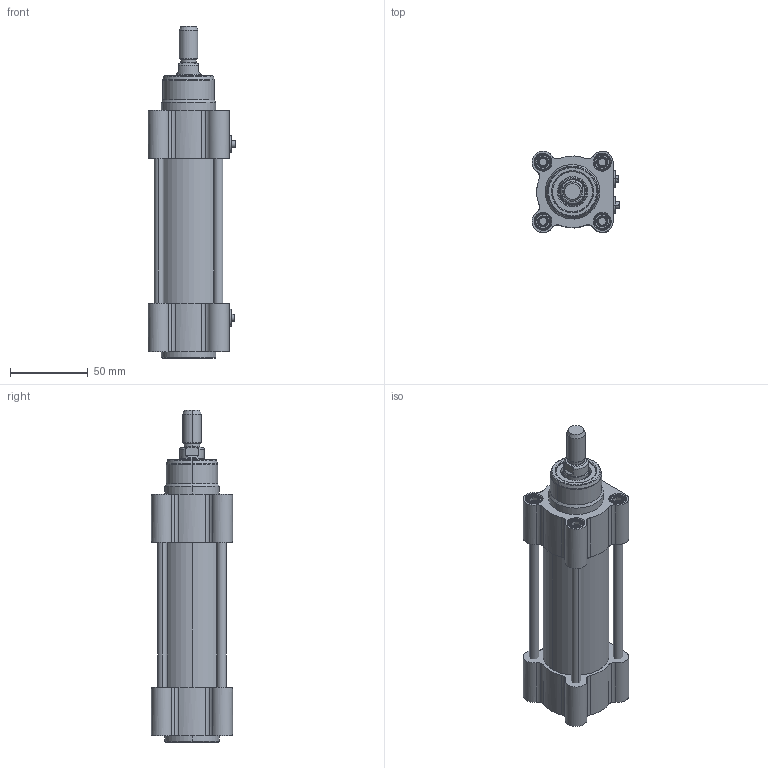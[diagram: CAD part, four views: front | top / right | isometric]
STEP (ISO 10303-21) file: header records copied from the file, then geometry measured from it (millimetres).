
FILE_DESCRIPTION (( 'STEP AP203' ), '1' );
FILE_NAME ('CTMI40-50.STEP', '2020-03-26T19:08:09', ( '' ), ( '' ), 'SwSTEP 2.0', 'SolidWorks 2019', '' );
FILE_SCHEMA (( 'CONFIG_CONTROL_DESIGN' ));
Length unit declared in the file: millimetre
Products named in the file (1): CTMI40-50
Bounding box: 56.39 x 52 x 213 mm (x, y, z)
Surface area: 87909.8 mm2 (no closed solid volume)
Topology: 0 solids, 24 shells, 689 faces, 1578 edges, 970 vertices
Faces by surface type: cylinder 201, cone 195, plane 193, torus 84, bspline 16
Entity records: 29688 total; most frequent: CARTESIAN_POINT 16244, ORIENTED_EDGE 3112, DIRECTION 2051, EDGE_CURVE 1578, B_SPLINE_CURVE_WITH_KNOTS 995, VERTEX_POINT 970, AXIS2_PLACEMENT_3D 842, EDGE_LOOP 764
